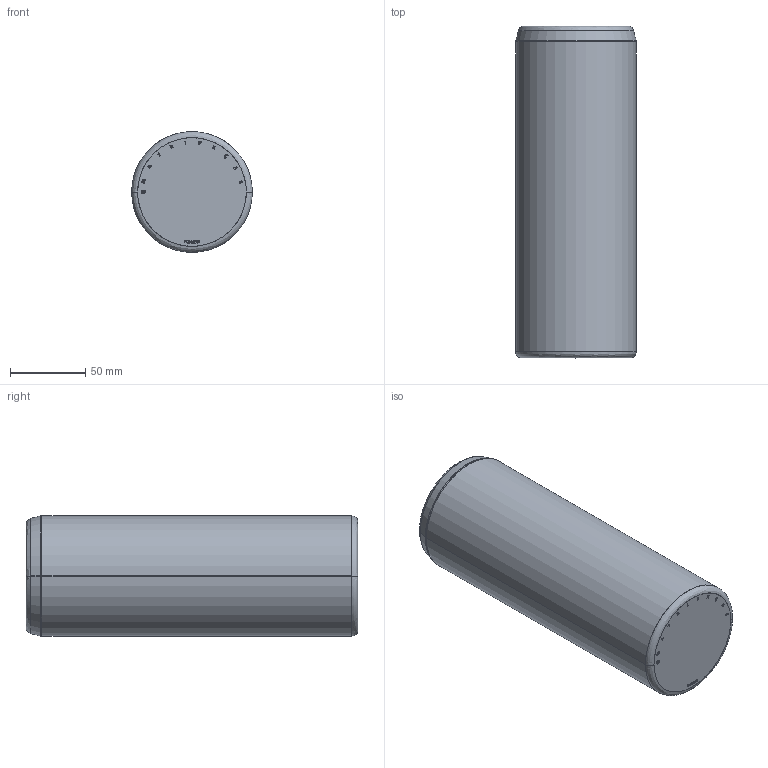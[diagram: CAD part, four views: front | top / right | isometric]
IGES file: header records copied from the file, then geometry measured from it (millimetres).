
Start section: SolidWorks IGES file using analytic representation for surfaces
Global section: file name: D:\Cleonir_arquivos\MT_15_07\Pinos Lisos\PL80220.igs; native system: SolidWorks 2013; preprocessor: SolidWorks 2013; author: Cleonir; date: 130731.134610; units: millimetre
Bounding box: 80 x 220 x 80 mm (x, y, z)
Surface area: 66942.6 mm2 (no closed solid volume)
Topology: 0 solids, 0 shells, 280 faces, 3577 edges, 3575 vertices
Faces by surface type: bspline 259, revolution 21
